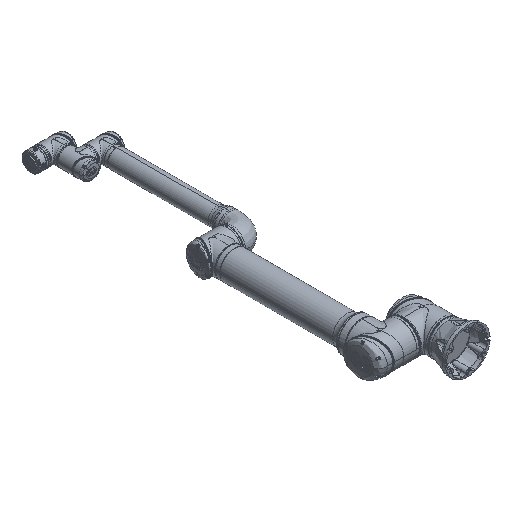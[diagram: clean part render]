
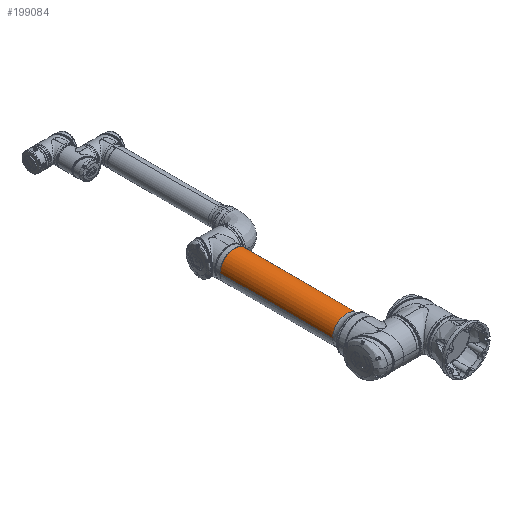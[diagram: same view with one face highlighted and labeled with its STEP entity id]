
A CAD part, isometric view. The second image highlights one B-rep face of the part: STEP entity #199084.
In plain terms, the highlighted cylindrical face has radius 76 mm (diameter 152 mm), a partial arc.
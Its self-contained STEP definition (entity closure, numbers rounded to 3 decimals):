
#1375 = EDGE_CURVE ( 'NONE', #53811, #44363, #297408, .T. ) ;
#5992 = CIRCLE ( 'NONE', #281098, 76. ) ;
#7351 = DIRECTION ( 'NONE',  ( 0., 0., 1. ) ) ;
#12219 = AXIS2_PLACEMENT_3D ( 'NONE', #111840, #311958, #186548 ) ;
#44363 = VERTEX_POINT ( 'NONE', #290160 ) ;
#53811 = VERTEX_POINT ( 'NONE', #268391 ) ;
#57241 = DIRECTION ( 'NONE',  ( 0., 1., 0. ) ) ;
#81376 = FACE_OUTER_BOUND ( 'NONE', #165893, .T. ) ;
#96462 = VERTEX_POINT ( 'NONE', #170993 ) ;
#104315 = CARTESIAN_POINT ( 'NONE',  ( -125.382, 285.309, 0. ) ) ;
#109671 = VECTOR ( 'NONE', #126076, 1000. ) ;
#111840 = CARTESIAN_POINT ( 'NONE',  ( -125.382, -403.191, 0. ) ) ;
#112178 = ORIENTED_EDGE ( 'NONE', *, *, #186983, .F. ) ;
#125446 = CARTESIAN_POINT ( 'NONE',  ( -125.382, -403.191, 76. ) ) ;
#126076 = DIRECTION ( 'NONE',  ( 0., -1., 0. ) ) ;
#156338 = AXIS2_PLACEMENT_3D ( 'NONE', #205552, #57241, #7351 ) ;
#158951 = ORIENTED_EDGE ( 'NONE', *, *, #212275, .T. ) ;
#165893 = EDGE_LOOP ( 'NONE', ( #203324, #158951, #190578, #112178 ) ) ;
#170993 = CARTESIAN_POINT ( 'NONE',  ( -125.382, 285.309, -76. ) ) ;
#175886 = CARTESIAN_POINT ( 'NONE',  ( -125.382, -403.191, -76. ) ) ;
#176148 = CARTESIAN_POINT ( 'NONE',  ( -125.382, 285.309, 76. ) ) ;
#180012 = DIRECTION ( 'NONE',  ( 0., 0., 1. ) ) ;
#186548 = DIRECTION ( 'NONE',  ( 0., 0., 1. ) ) ;
#186983 = EDGE_CURVE ( 'NONE', #281059, #44363, #197996, .T. ) ;
#187044 = LINE ( 'NONE', #175886, #109671 ) ;
#190578 = ORIENTED_EDGE ( 'NONE', *, *, #1375, .T. ) ;
#197996 = LINE ( 'NONE', #125446, #287080 ) ;
#199084 = ADVANCED_FACE ( 'NONE', ( #81376 ), #278838, .T. ) ;
#203324 = ORIENTED_EDGE ( 'NONE', *, *, #264573, .T. ) ;
#205552 = CARTESIAN_POINT ( 'NONE',  ( -125.382, -315.484, 0. ) ) ;
#212275 = EDGE_CURVE ( 'NONE', #96462, #53811, #187044, .T. ) ;
#264573 = EDGE_CURVE ( 'NONE', #281059, #96462, #5992, .T. ) ;
#268391 = CARTESIAN_POINT ( 'NONE',  ( -125.382, -315.484, -76. ) ) ;
#274822 = DIRECTION ( 'NONE',  ( 0., -1., 0. ) ) ;
#278838 = CYLINDRICAL_SURFACE ( 'NONE', #12219, 76. ) ;
#280633 = DIRECTION ( 'NONE',  ( 0., -1., 0. ) ) ;
#281059 = VERTEX_POINT ( 'NONE', #176148 ) ;
#281098 = AXIS2_PLACEMENT_3D ( 'NONE', #104315, #280633, #180012 ) ;
#287080 = VECTOR ( 'NONE', #274822, 1000. ) ;
#290160 = CARTESIAN_POINT ( 'NONE',  ( -125.382, -315.484, 76. ) ) ;
#297408 = CIRCLE ( 'NONE', #156338, 76. ) ;
#311958 = DIRECTION ( 'NONE',  ( 0., -1., 0. ) ) ;
